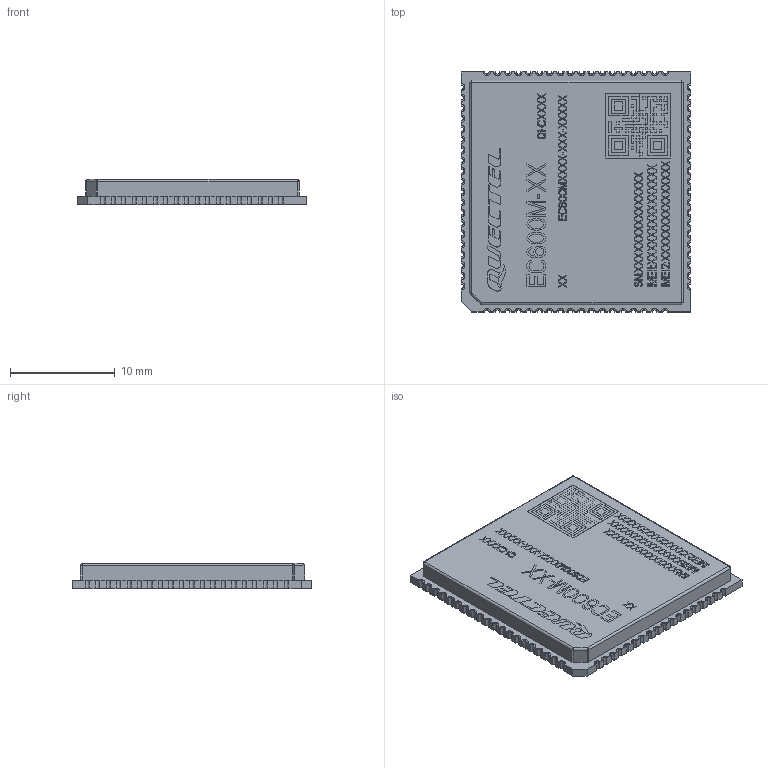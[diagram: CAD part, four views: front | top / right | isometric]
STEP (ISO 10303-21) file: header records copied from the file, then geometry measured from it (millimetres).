
FILE_DESCRIPTION((''),'2;1');
FILE_NAME('EC600M-EU-LA_3D_DIMENSIONS_ASM','2024-08-15T',('atim.chen'),(''),'CREO PARAMETRIC BY PTC INC, 2014190','CREO PARAMETRIC BY PTC INC, 2014190','');
FILE_SCHEMA(('AUTOMOTIVE_DESIGN { 1 0 10303 214 1 1 1 1 }'));
Products named in the file (3): EC600M-EU_3D_DIMENSIONS_PCB; EC600M-EU_SHIELDING_COVER; EC600M-EU-LA_3D_DIMENSIONS_ASM
Assembly tree (2 placements, depth 2):
  EC600M-EU-LA_3D_DIMENSIONS_ASM
    EC600M-EU_3D_DIMENSIONS_PCB
    EC600M-EU_SHIELDING_COVER
Bounding box: 21.9 x 22.9 x 2.4 mm (x, y, z)
Volume: 503.9 mm3; surface area: 2249.1 mm2
Topology: 2 solids, 128 shells, 1216 faces, 4839 edges, 3803 vertices
Faces by surface type: plane 1059, cylinder 157
Entity records: 68843 total; most frequent: CARTESIAN_POINT 10067, ORIENTED_EDGE 7829, DIRECTION 7556, PRESENTATION_STYLE_ASSIGNMENT 5244, STYLED_ITEM 4846, CURVE_STYLE 4839, EDGE_CURVE 4839, VECTOR 4482
